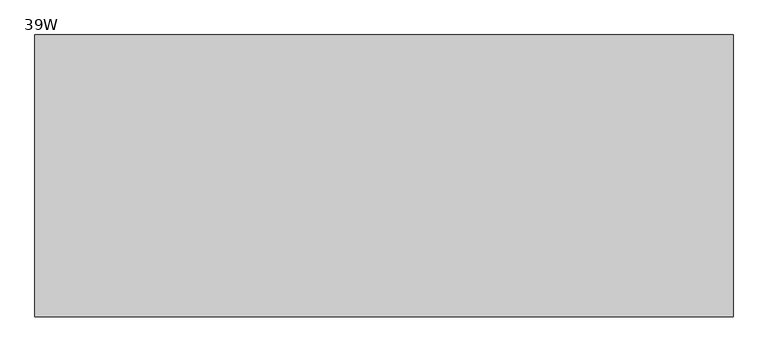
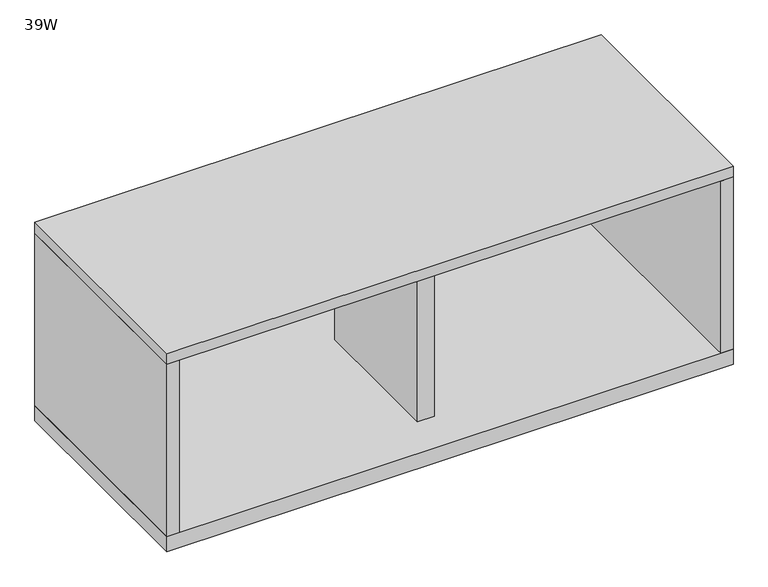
"""IFC4 building model written with IfcOpenShell, lengths in millimetres: furniture geometry, Steelcase - Montage - Healthcare Components - Patient Chart Box : 39W."""

from ifc_helpers import new_model, si_unit, frame, origin, place, context, project, spatial, polyline, outline, extrude, source, transform, mapped, element, save


def furniture_39w_d34182e1(model_context):
    return source(origin(), model_context, "Body", "SweptSolid", [
        extrude(outline(polyline([(510.3495, -129.0066), (480.2505, -129.0066), (480.2505, 126.1549577), (510.3495, 126.1549577), (510.3495, -129.0066)])), frame((0.0, 0.0, 792.2514238), z_axis=(0.0, 0.0, 1.0), x_axis=(1.0, 0.0, 0.0)), (0.0, 0.0, 1.0), 323.9261581),
        extrude(outline(polyline([(998.601, -203.2), (-8.001, -203.2), (-8.001, 203.2), (998.601, 203.2), (998.601, -203.2)])), frame((0.0, 0.0, 763.6509893), z_axis=(0.0, 0.0, 1.0), x_axis=(1.0, 0.0, 0.0)), (0.0, 0.0, 1.0), 28.6004345),
        extrude(outline(polyline([(998.601, -203.2), (-8.001, -203.2), (-8.001, 203.2), (998.601, 203.2), (998.601, -203.2)])), frame((0.0, 0.0, 1116.177582), z_axis=(0.0, 0.0, 1.0), x_axis=(1.0, 0.0, 0.0)), (0.0, 0.0, 1.0), 20.4724422),
        extrude(outline(polyline([(14.097, -203.2), (-8.001, -203.2), (-8.001, 203.2), (14.097, 203.2), (14.097, -203.2)])), frame((0.0, 0.0, 792.2514238), z_axis=(0.0, 0.0, 1.0), x_axis=(1.0, 0.0, 0.0)), (0.0, 0.0, 1.0), 323.9261581),
        extrude(outline(polyline([(998.601, -203.2), (976.6046, -203.2), (976.6046, 203.2), (998.601, 203.2), (998.601, -203.2)])), frame((0.0, 0.0, 792.2514238), z_axis=(0.0, 0.0, 1.0), x_axis=(1.0, 0.0, 0.0)), (0.0, 0.0, 1.0), 323.9261581),
    ])


if __name__ == "__main__":
    model = new_model("IFC4")
    model_context = context("Model", 3, world=origin())
    ifc_project = project(units=[si_unit("LENGTHUNIT", "METRE", prefix="MILLI")], contexts=[model_context])
    site = spatial("IfcSite", under=ifc_project)
    building = spatial("IfcBuilding", under=site)
    placement = place(None, origin())
    furniture_39w_shape = furniture_39w_d34182e1(model_context)
    element("IfcFurniture", 1, ObjectType="Steelcase - Montage - Healthcare Components - Patient Chart Box : 39W", at=placement, inside=building, context=model_context, shape_type="MappedRepresentation", body=[
        mapped(furniture_39w_shape, transform((0.0, 0.0, 0.0), x_axis=(1.0, 0.0, 0.0), y_axis=(0.0, 1.0, 0.0), z_axis=(0.0, 0.0, 1.0))),
    ])
    save(model, "model.ifc")
